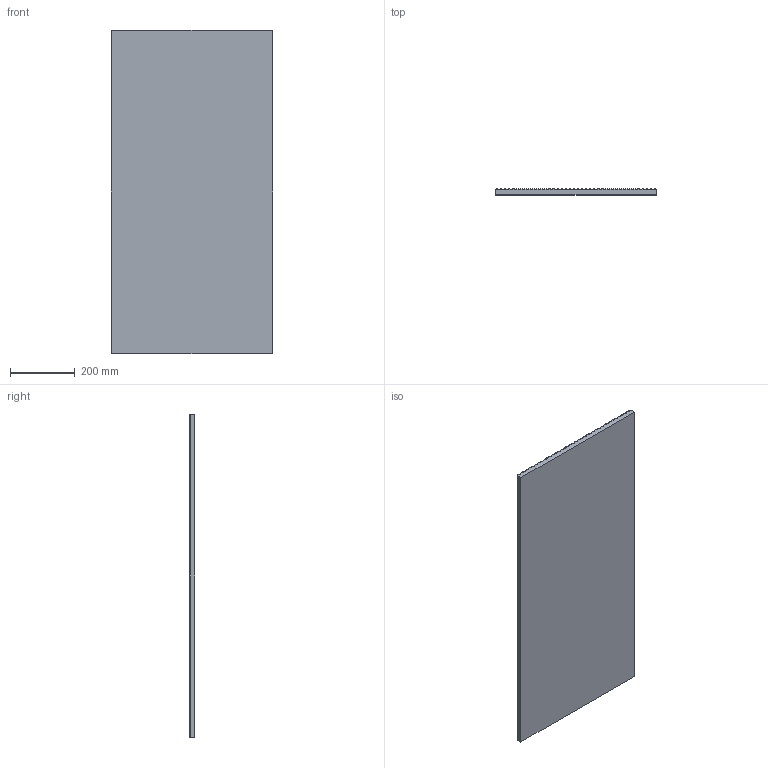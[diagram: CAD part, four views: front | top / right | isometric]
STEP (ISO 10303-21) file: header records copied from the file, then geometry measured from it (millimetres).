
FILE_DESCRIPTION(/* description */ (''),/* implementation_level */ '2;1');
FILE_NAME(/* name */ 'W103.stp',/* time_stamp */ '2024-06-11T15:48:06+02:00',/* author */ ('bzsolt'),/* organization */ (''),/* preprocessor_version */ 'ST-DEVELOPER v20',/* originating_system */ 'Autodesk Inventor 2025',/* authorisation */ '');
FILE_SCHEMA (('AUTOMOTIVE_DESIGN { 1 0 10303 214 3 1 1 }'));
Length unit declared in the file: millimetre
Products named in the file (1): W103
Bounding box: 500 x 18 x 1000 mm (x, y, z)
Volume: 8274256.5 mm3; surface area: 1157584.9 mm2
Topology: 1 solids, 1 shells, 738 faces, 1560 edges, 824 vertices
Faces by surface type: cylinder 367, sphere 160, plane 125, torus 82, bspline 4
Entity records: 19476 total; most frequent: DIRECTION 3838, CARTESIAN_POINT 3279, ORIENTED_EDGE 3120, EDGE_CURVE 1560, AXIS2_PLACEMENT_3D 1551, VERTEX_POINT 824, CIRCLE 816, FACE_OUTER_BOUND 738
